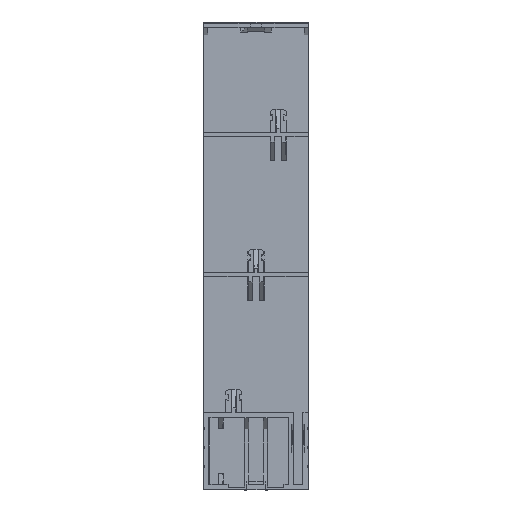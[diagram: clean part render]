
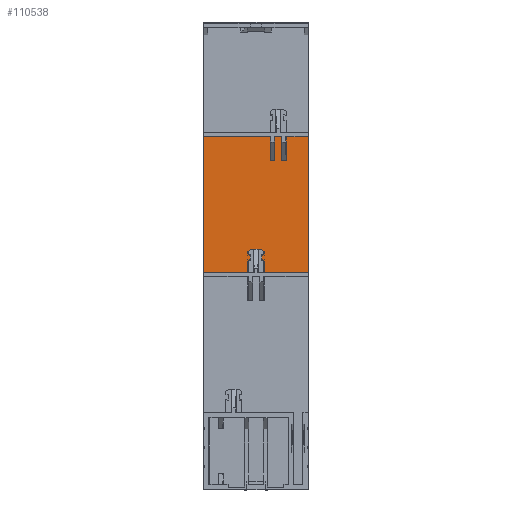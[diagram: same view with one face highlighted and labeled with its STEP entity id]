
A CAD part, front view. The second image highlights one B-rep face of the part: STEP entity #110538.
In plain terms, the highlighted planar face has unit normal (0, -1, 0).
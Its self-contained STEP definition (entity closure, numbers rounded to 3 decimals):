
#1320 = LINE ( 'NONE', #10363, #75809 ) ;
#3003 = ORIENTED_EDGE ( 'NONE', *, *, #74532, .T. ) ;
#3065 = CARTESIAN_POINT ( 'NONE',  ( 8.041, -4.5, 141.175 ) ) ;
#3765 = CARTESIAN_POINT ( 'NONE',  ( 224.594, -4.5, 151.209 ) ) ;
#4116 = VERTEX_POINT ( 'NONE', #99489 ) ;
#5178 = EDGE_CURVE ( 'NONE', #115674, #4116, #72078, .T. ) ;
#7298 = VECTOR ( 'NONE', #106881, 1000. ) ;
#7647 = AXIS2_PLACEMENT_3D ( 'NONE', #98795, #90560, #64216 ) ;
#10363 = CARTESIAN_POINT ( 'NONE',  ( 224.594, -4.5, 141.175 ) ) ;
#10573 = VERTEX_POINT ( 'NONE', #82053 ) ;
#12382 = EDGE_CURVE ( 'NONE', #13877, #10573, #55743, .T. ) ;
#13034 = LINE ( 'NONE', #31620, #49512 ) ;
#13877 = VERTEX_POINT ( 'NONE', #97337 ) ;
#13983 = ORIENTED_EDGE ( 'NONE', *, *, #19963, .T. ) ;
#14916 = EDGE_CURVE ( 'NONE', #4116, #46935, #103386, .T. ) ;
#15349 = VECTOR ( 'NONE', #42918, 1000. ) ;
#16477 = LINE ( 'NONE', #108035, #31902 ) ;
#17114 = LINE ( 'NONE', #3765, #86000 ) ;
#17647 = VECTOR ( 'NONE', #98114, 1000. ) ;
#17776 = VECTOR ( 'NONE', #51943, 1000. ) ;
#17907 = PLANE ( 'NONE',  #7647 ) ;
#19948 = CARTESIAN_POINT ( 'NONE',  ( 6.059, -4.5, 200.5 ) ) ;
#19963 = EDGE_CURVE ( 'NONE', #10573, #115674, #49966, .T. ) ;
#24753 = CARTESIAN_POINT ( 'NONE',  ( 22.5, -4.5, 151.209 ) ) ;
#25208 = EDGE_CURVE ( 'NONE', #102136, #62499, #17114, .T. ) ;
#25467 = FACE_OUTER_BOUND ( 'NONE', #66206, .T. ) ;
#28074 = ORIENTED_EDGE ( 'NONE', *, *, #39454, .T. ) ;
#30972 = ORIENTED_EDGE ( 'NONE', *, *, #14916, .T. ) ;
#31620 = CARTESIAN_POINT ( 'NONE',  ( 12.941, -4.5, 200.5 ) ) ;
#31902 = VECTOR ( 'NONE', #53097, 1000. ) ;
#32677 = EDGE_CURVE ( 'NONE', #54338, #94359, #1320, .T. ) ;
#36372 = DIRECTION ( 'NONE',  ( 0., 0., -1. ) ) ;
#36680 = LINE ( 'NONE', #69180, #105411 ) ;
#37413 = CARTESIAN_POINT ( 'NONE',  ( 10.959, -4.5, 141.175 ) ) ;
#39381 = CARTESIAN_POINT ( 'NONE',  ( -22.5, -4.5, 93. ) ) ;
#39454 = EDGE_CURVE ( 'NONE', #94359, #13877, #97540, .T. ) ;
#39481 = DIRECTION ( 'NONE',  ( 0., 0., -1. ) ) ;
#40787 = CARTESIAN_POINT ( 'NONE',  ( 6.059, -4.5, 141.175 ) ) ;
#42918 = DIRECTION ( 'NONE',  ( 0., 0., -1. ) ) ;
#46935 = VERTEX_POINT ( 'NONE', #24753 ) ;
#47150 = VERTEX_POINT ( 'NONE', #52987 ) ;
#49512 = VECTOR ( 'NONE', #39481, 1000. ) ;
#49966 = LINE ( 'NONE', #90207, #115987 ) ;
#51170 = CARTESIAN_POINT ( 'NONE',  ( 224.594, -4.5, 151.209 ) ) ;
#51528 = CARTESIAN_POINT ( 'NONE',  ( 8.041, -4.5, 200.5 ) ) ;
#51943 = DIRECTION ( 'NONE',  ( -1., 0., 0. ) ) ;
#52987 = CARTESIAN_POINT ( 'NONE',  ( 12.941, -4.5, 151.209 ) ) ;
#53097 = DIRECTION ( 'NONE',  ( -1., 0., 0. ) ) ;
#54338 = VERTEX_POINT ( 'NONE', #3065 ) ;
#55040 = ORIENTED_EDGE ( 'NONE', *, *, #12382, .T. ) ;
#55743 = LINE ( 'NONE', #51170, #17776 ) ;
#56853 = DIRECTION ( 'NONE',  ( 0., 0., 1. ) ) ;
#57162 = EDGE_CURVE ( 'NONE', #62499, #54338, #113605, .T. ) ;
#57877 = CARTESIAN_POINT ( 'NONE',  ( 25.5, -4.5, 93. ) ) ;
#58330 = DIRECTION ( 'NONE',  ( -1., 0., 0. ) ) ;
#59105 = ORIENTED_EDGE ( 'NONE', *, *, #68437, .T. ) ;
#61331 = DIRECTION ( 'NONE',  ( 0., 0., 1. ) ) ;
#62499 = VERTEX_POINT ( 'NONE', #78249 ) ;
#62719 = ORIENTED_EDGE ( 'NONE', *, *, #57162, .T. ) ;
#63055 = ORIENTED_EDGE ( 'NONE', *, *, #101569, .T. ) ;
#63883 = VECTOR ( 'NONE', #56853, 1000. ) ;
#64216 = DIRECTION ( 'NONE',  ( 0., 0., -1. ) ) ;
#66206 = EDGE_LOOP ( 'NONE', ( #88765, #28074, #55040, #13983, #82319, #30972, #59105, #3003, #95220, #63055, #76262, #62719 ) ) ;
#68437 = EDGE_CURVE ( 'NONE', #46935, #47150, #16477, .T. ) ;
#69180 = CARTESIAN_POINT ( 'NONE',  ( 10.959, -4.5, 200.5 ) ) ;
#72078 = LINE ( 'NONE', #57877, #100115 ) ;
#72726 = VERTEX_POINT ( 'NONE', #37413 ) ;
#73445 = VERTEX_POINT ( 'NONE', #80182 ) ;
#74532 = EDGE_CURVE ( 'NONE', #47150, #73445, #13034, .T. ) ;
#75809 = VECTOR ( 'NONE', #99465, 1000. ) ;
#76262 = ORIENTED_EDGE ( 'NONE', *, *, #25208, .T. ) ;
#78249 = CARTESIAN_POINT ( 'NONE',  ( 8.041, -4.5, 151.209 ) ) ;
#80182 = CARTESIAN_POINT ( 'NONE',  ( 12.941, -4.5, 141.175 ) ) ;
#82053 = CARTESIAN_POINT ( 'NONE',  ( -22.5, -4.5, 151.209 ) ) ;
#82319 = ORIENTED_EDGE ( 'NONE', *, *, #5178, .T. ) ;
#86000 = VECTOR ( 'NONE', #58330, 1000. ) ;
#88765 = ORIENTED_EDGE ( 'NONE', *, *, #32677, .T. ) ;
#89513 = CARTESIAN_POINT ( 'NONE',  ( 22.5, -4.5, 200.5 ) ) ;
#90207 = CARTESIAN_POINT ( 'NONE',  ( -22.5, -4.5, 200. ) ) ;
#90560 = DIRECTION ( 'NONE',  ( 0., -1., 0. ) ) ;
#94359 = VERTEX_POINT ( 'NONE', #40787 ) ;
#95220 = ORIENTED_EDGE ( 'NONE', *, *, #100192, .T. ) ;
#97163 = LINE ( 'NONE', #114390, #7298 ) ;
#97337 = CARTESIAN_POINT ( 'NONE',  ( 6.059, -4.5, 151.209 ) ) ;
#97540 = LINE ( 'NONE', #19948, #63883 ) ;
#98114 = DIRECTION ( 'NONE',  ( 0., 0., 1. ) ) ;
#98795 = CARTESIAN_POINT ( 'NONE',  ( 224.594, -4.5, 200.5 ) ) ;
#99308 = CARTESIAN_POINT ( 'NONE',  ( 10.959, -4.5, 151.209 ) ) ;
#99465 = DIRECTION ( 'NONE',  ( -1., 0., 0. ) ) ;
#99489 = CARTESIAN_POINT ( 'NONE',  ( 22.5, -4.5, 93. ) ) ;
#100115 = VECTOR ( 'NONE', #110866, 1000. ) ;
#100192 = EDGE_CURVE ( 'NONE', #73445, #72726, #97163, .T. ) ;
#101569 = EDGE_CURVE ( 'NONE', #72726, #102136, #36680, .T. ) ;
#102136 = VERTEX_POINT ( 'NONE', #99308 ) ;
#103386 = LINE ( 'NONE', #89513, #17647 ) ;
#105411 = VECTOR ( 'NONE', #61331, 1000. ) ;
#106881 = DIRECTION ( 'NONE',  ( -1., 0., 0. ) ) ;
#108035 = CARTESIAN_POINT ( 'NONE',  ( 224.594, -4.5, 151.209 ) ) ;
#110538 = ADVANCED_FACE ( 'NONE', ( #25467 ), #17907, .T. ) ;
#110866 = DIRECTION ( 'NONE',  ( 1., 0., 0. ) ) ;
#113605 = LINE ( 'NONE', #51528, #15349 ) ;
#114390 = CARTESIAN_POINT ( 'NONE',  ( 224.594, -4.5, 141.175 ) ) ;
#115674 = VERTEX_POINT ( 'NONE', #39381 ) ;
#115987 = VECTOR ( 'NONE', #36372, 1000. ) ;
